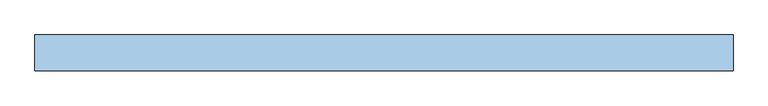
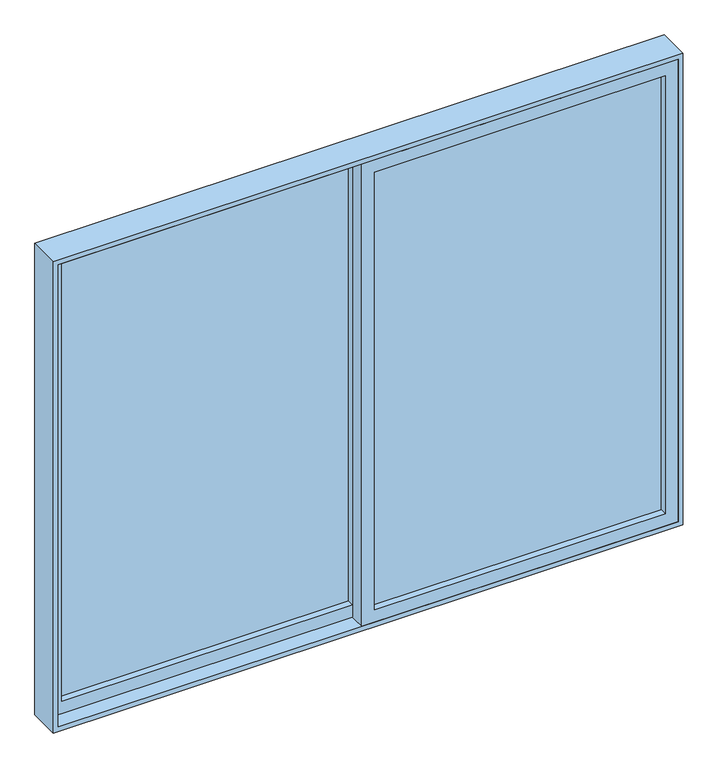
"""IFC4 building model written with IfcOpenShell, lengths in millimetres: window geometry, VENT_ALUM_CORR_2HOJAS_CORRE 1 : VD-7 / CORRE RECAM 1.96 X 1.55."""

from ifc_helpers import new_model, si_unit, frame, origin, place, context, project, spatial, polyline, outline, extrude, source, transform, mapped, element, save


def window_13a88a20(model_context):
    return source(origin(), model_context, "Body", "SweptSolid", [
        extrude(outline(polyline([(-20.0, 28.0), (-20.0, 22.0), (-925.0, 22.0), (-925.0, 28.0), (-20.0, 28.0)])), frame((0.0, 0.0, 855.0), z_axis=(0.0, 0.0, 1.0), x_axis=(1.0, 0.0, 0.0)), (0.0, 0.0, 1.0), 1440.0),
        extrude(outline(polyline([(2335.0, -965.0), (815.0, -965.0), (815.0, 20.0), (2335.0, 20.0), (2335.0, -965.0)]), holes=[polyline([(855.0, -925.0), (2295.0, -925.0), (2295.0, -20.0), (855.0, -20.0), (855.0, -925.0)])]), frame((0.0, 0.0, 0.0), z_axis=(0.0, 1.0, 0.0), x_axis=(0.0, 0.0, 1.0)), (0.0, 0.0, 1.0), 50.0),
        extrude(outline(polyline([(20.0, -28.0), (20.0, -22.0), (925.0, -22.0), (925.0, -28.0), (20.0, -28.0)])), frame((0.0, 0.0, 855.0), z_axis=(0.0, 0.0, 1.0), x_axis=(1.0, 0.0, 0.0)), (0.0, 0.0, 1.0), 1440.0),
        extrude(outline(polyline([(2335.0, -20.0), (815.0, -20.0), (815.0, 965.0), (2335.0, 965.0), (2335.0, -20.0)]), holes=[polyline([(855.0, 20.0), (2295.0, 20.0), (2295.0, 925.0), (855.0, 925.0), (855.0, 20.0)])]), frame((0.0, -50.0, 0.0), z_axis=(0.0, 1.0, 0.0), x_axis=(0.0, 0.0, 1.0)), (0.0, 0.0, 1.0), 50.0),
        extrude(outline(polyline([(2350.0, -980.0), (800.0, -980.0), (800.0, 980.0), (2350.0, 980.0), (2350.0, -980.0)]), holes=[polyline([(815.0, -965.0), (2335.0, -965.0), (2335.0, 965.0), (815.0, 965.0), (815.0, -965.0)])]), frame((0.0, -50.0, 0.0), z_axis=(0.0, 1.0, 0.0), x_axis=(0.0, 0.0, 1.0)), (0.0, 0.0, 1.0), 100.0),
    ])


if __name__ == "__main__":
    model = new_model("IFC4")
    model_context = context("Model", 3, world=origin())
    ifc_project = project(units=[si_unit("LENGTHUNIT", "METRE", prefix="MILLI")], contexts=[model_context])
    site = spatial("IfcSite", under=ifc_project)
    building = spatial("IfcBuilding", under=site)
    placement = place(None, origin())
    window_shape = window_13a88a20(model_context)
    element("IfcWindow", 1, ObjectType="VENT_ALUM_CORR_2HOJAS_CORRE 1 : VD-7 / CORRE RECAM 1.96 X 1.55", at=placement, inside=building, context=model_context, shape_type="MappedRepresentation", body=[
        mapped(window_shape, transform((0.0, 0.0, 0.0), x_axis=(1.0, 0.0, 0.0), y_axis=(0.0, 1.0, 0.0), z_axis=(0.0, 0.0, 1.0))),
    ])
    save(model, "model.ifc")
